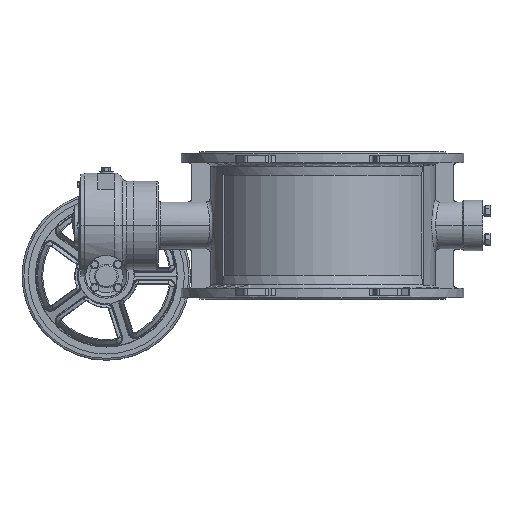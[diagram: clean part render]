
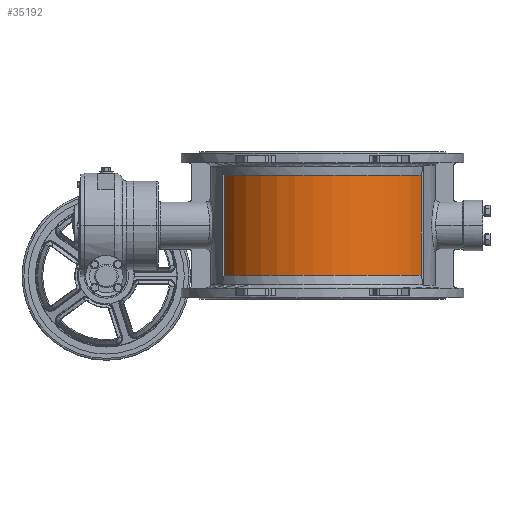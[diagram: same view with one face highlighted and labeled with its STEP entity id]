
A CAD part, front view. The second image highlights one B-rep face of the part: STEP entity #35192.
In plain terms, the highlighted cylindrical face has radius 262 mm (diameter 524 mm), a partial arc.
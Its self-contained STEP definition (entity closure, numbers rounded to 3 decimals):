
#35023 = VERTEX_POINT ( 'NONE', #42328 ) ;
#35024 = EDGE_CURVE ( 'NONE', #35041, #35023, #42379, .T. ) ;
#35041 = VERTEX_POINT ( 'NONE', #42460 ) ;
#35056 = VERTEX_POINT ( 'NONE', #42833 ) ;
#35058 = EDGE_CURVE ( 'NONE', #35056, #35128, #42838, .T. ) ;
#35066 = EDGE_CURVE ( 'NONE', #35023, #35128, #42857, .T. ) ;
#35128 = VERTEX_POINT ( 'NONE', #43160 ) ;
#35190 = ORIENTED_EDGE ( 'NONE', *, *, #35024, .F. ) ;
#35192 = ADVANCED_FACE ( 'NONE', ( #43317 ), #43316, .T. ) ;
#35193 = ORIENTED_EDGE ( 'NONE', *, *, #35058, .T. ) ;
#35194 = ORIENTED_EDGE ( 'NONE', *, *, #35195, .F. ) ;
#35195 = EDGE_CURVE ( 'NONE', #35056, #35041, #43354, .T. ) ;
#35196 = ORIENTED_EDGE ( 'NONE', *, *, #35066, .F. ) ;
#35199 = EDGE_LOOP ( 'NONE', ( #35194, #35193, #35196, #35190 ) ) ;
#42315 = AXIS2_PLACEMENT_3D ( 'NONE', #42378, #42377, #42376 ) ;
#42328 = CARTESIAN_POINT ( 'NONE',  ( 233.797, -118.25, 118.5 ) ) ;
#42376 = DIRECTION ( 'NONE',  ( 1., 0., 0. ) ) ;
#42377 = DIRECTION ( 'NONE',  ( 0., 0., 1. ) ) ;
#42378 = CARTESIAN_POINT ( 'NONE',  ( 0., 0., 118.5 ) ) ;
#42379 = CIRCLE ( 'NONE', #42315, 262. ) ;
#42460 = CARTESIAN_POINT ( 'NONE',  ( -233.797, -118.25, 118.5 ) ) ;
#42828 = DIRECTION ( 'NONE',  ( 1., 0., 0. ) ) ;
#42829 = DIRECTION ( 'NONE',  ( 0., 0., 1. ) ) ;
#42830 = CARTESIAN_POINT ( 'NONE',  ( 0., 0., -118.5 ) ) ;
#42831 = AXIS2_PLACEMENT_3D ( 'NONE', #42830, #42829, #42828 ) ;
#42833 = CARTESIAN_POINT ( 'NONE',  ( -233.797, -118.25, -118.5 ) ) ;
#42838 = CIRCLE ( 'NONE', #42831, 262. ) ;
#42854 = DIRECTION ( 'NONE',  ( 0., 0., -1. ) ) ;
#42855 = VECTOR ( 'NONE', #42854, 1000. ) ;
#42856 = CARTESIAN_POINT ( 'NONE',  ( 233.797, -118.25, 0. ) ) ;
#42857 = LINE ( 'NONE', #42856, #42855 ) ;
#43160 = CARTESIAN_POINT ( 'NONE',  ( 233.797, -118.25, -118.5 ) ) ;
#43316 = CYLINDRICAL_SURFACE ( 'NONE', #43319, 262. ) ;
#43317 = FACE_OUTER_BOUND ( 'NONE', #35199, .T. ) ;
#43319 = AXIS2_PLACEMENT_3D ( 'NONE', #43358, #43357, #43356 ) ;
#43351 = DIRECTION ( 'NONE',  ( 0., 0., 1. ) ) ;
#43352 = VECTOR ( 'NONE', #43351, 1000. ) ;
#43353 = CARTESIAN_POINT ( 'NONE',  ( -233.797, -118.25, 0. ) ) ;
#43354 = LINE ( 'NONE', #43353, #43352 ) ;
#43356 = DIRECTION ( 'NONE',  ( 1., 0., 0. ) ) ;
#43357 = DIRECTION ( 'NONE',  ( 0., 0., 1. ) ) ;
#43358 = CARTESIAN_POINT ( 'NONE',  ( 0., 0., 0. ) ) ;
